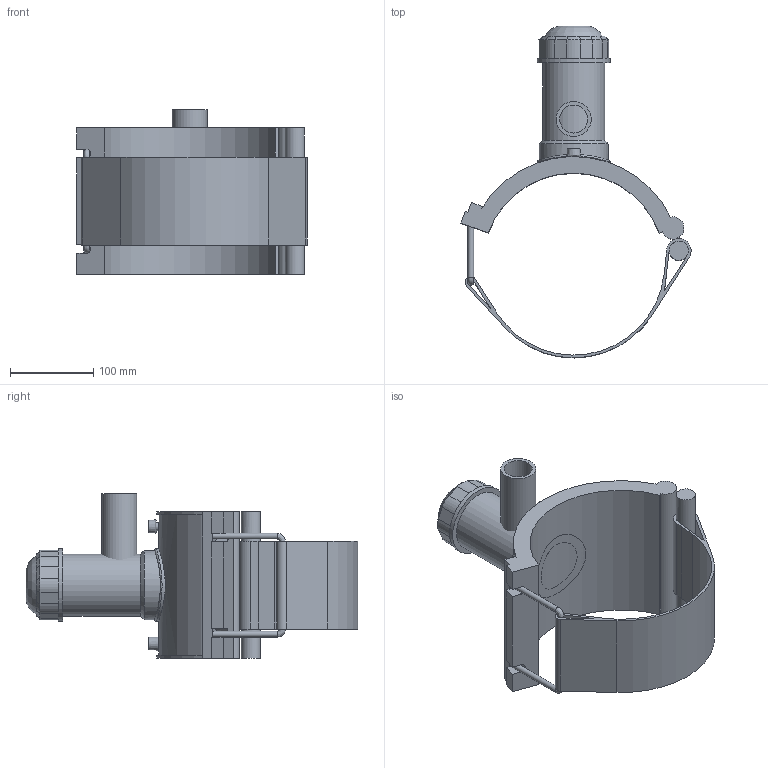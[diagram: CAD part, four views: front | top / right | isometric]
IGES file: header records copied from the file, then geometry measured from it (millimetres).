
Global section: file name: 5963BBP3080013.ipt; native system: Autodesk Inventor 2019; preprocessor: unknown; author: KIM; date: 20210830.101604; units: inch
Bounding box: 276.84 x 399.02 x 197.99 mm (x, y, z)
Volume: 1837495.6 mm3; surface area: 371155.5 mm2
Topology: 4 solids, 4 shells, 124 faces, 304 edges, 194 vertices
Faces by surface type: plane 69, cylinder 28, revolution 15, cone 11, bspline 1
Full cylindrical faces by diameter (mm): 4 x2, 6.998 x2, 23.048 x1, 42.1 x1, 74.358 x1, 83.106 x1, 87.48 x2
